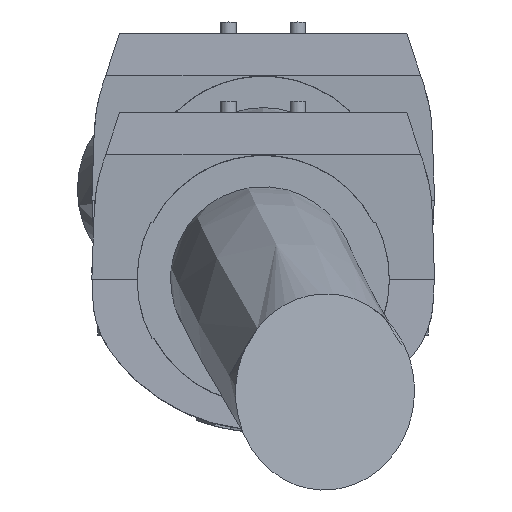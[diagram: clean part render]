
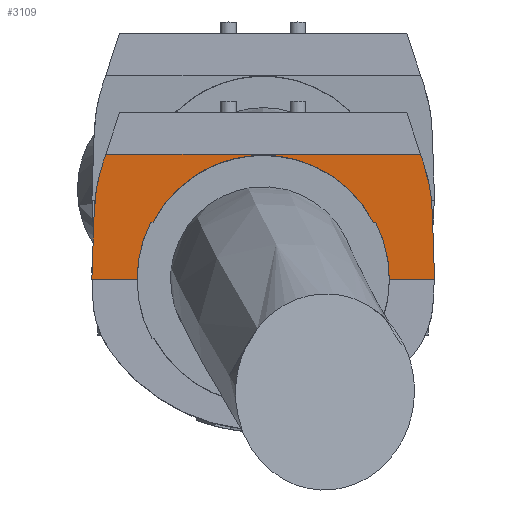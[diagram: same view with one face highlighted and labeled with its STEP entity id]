
A CAD part, top view. The second image highlights one B-rep face of the part: STEP entity #3109.
In plain terms, the highlighted planar face has unit normal (0, -0.035, 0.999).
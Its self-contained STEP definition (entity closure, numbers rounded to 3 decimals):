
#139 = LINE ( 'NONE', #6044, #7878 ) ;
#190 = DIRECTION ( 'NONE',  ( 0.314, -0.949, -0.033 ) ) ;
#214 = LINE ( 'NONE', #8619, #416 ) ;
#392 = CARTESIAN_POINT ( 'NONE',  ( 470.979, -479.756, 1771.635 ) ) ;
#416 = VECTOR ( 'NONE', #8741, 1000. ) ;
#435 =( BOUNDED_CURVE ( )  B_SPLINE_CURVE ( 3, ( #698, #8231, #6590, #392 ),
 .UNSPECIFIED., .F., .F. ) 
 B_SPLINE_CURVE_WITH_KNOTS ( ( 4, 4 ),
 ( 1.251, 1.536 ),
 .UNSPECIFIED. ) 
 CURVE ( )  GEOMETRIC_REPRESENTATION_ITEM ( )  RATIONAL_B_SPLINE_CURVE ( ( 1., 0.993, 0.993, 1. ) ) 
 REPRESENTATION_ITEM ( '' )  );
#474 = CARTESIAN_POINT ( 'NONE',  ( 330.036, -455., 1772.5 ) ) ;
#505 = CARTESIAN_POINT ( 'NONE',  ( 324., -509., 1770.614 ) ) ;
#522 = VERTEX_POINT ( 'NONE', #9570 ) ;
#572 = ORIENTED_EDGE ( 'NONE', *, *, #3030, .F. ) ;
#625 = ORIENTED_EDGE ( 'NONE', *, *, #5860, .F. ) ;
#698 = CARTESIAN_POINT ( 'NONE',  ( 467.218, -458.784, 1772.368 ) ) ;
#867 = ORIENTED_EDGE ( 'NONE', *, *, #10133, .F. ) ;
#890 = LINE ( 'NONE', #5927, #9682 ) ;
#1062 = VERTEX_POINT ( 'NONE', #6164 ) ;
#1076 = VERTEX_POINT ( 'NONE', #10164 ) ;
#1206 = DIRECTION ( 'NONE',  ( -1., 0., 0. ) ) ;
#1337 = CARTESIAN_POINT ( 'NONE',  ( 298., -484.322, 1771.476 ) ) ;
#1782 = EDGE_CURVE ( 'NONE', #3997, #10283, #214, .T. ) ;
#1926 = EDGE_CURVE ( 'NONE', #1062, #6649, #5701, .T. ) ;
#1948 = DIRECTION ( 'NONE',  ( 1., 0., 0. ) ) ;
#1957 = ORIENTED_EDGE ( 'NONE', *, *, #6521, .F. ) ;
#1978 = VERTEX_POINT ( 'NONE', #5942 ) ;
#2151 = CARTESIAN_POINT ( 'NONE',  ( 343.523, -500.383, 1770.915 ) ) ;
#2156 = CARTESIAN_POINT ( 'NONE',  ( 446.567, -484.322, 1771.476 ) ) ;
#2233 = ORIENTED_EDGE ( 'NONE', *, *, #1926, .T. ) ;
#2261 = LINE ( 'NONE', #505, #3875 ) ;
#2326 = ORIENTED_EDGE ( 'NONE', *, *, #6510, .F. ) ;
#2401 = VERTEX_POINT ( 'NONE', #2156 ) ;
#2495 = EDGE_CURVE ( 'NONE', #3476, #10082, #7259, .T. ) ;
#2555 = VERTEX_POINT ( 'NONE', #2603 ) ;
#2603 = CARTESIAN_POINT ( 'NONE',  ( 467.218, -458.784, 1772.368 ) ) ;
#2743 = PLANE ( 'NONE',  #8058 ) ;
#2890 = CARTESIAN_POINT ( 'NONE',  ( 345.53, -492.004, 1771.208 ) ) ;
#2896 = LINE ( 'NONE', #6238, #4701 ) ;
#3019 = ORIENTED_EDGE ( 'NONE', *, *, #9522, .F. ) ;
#3030 = EDGE_CURVE ( 'NONE', #1978, #2555, #139, .T. ) ;
#3109 = ADVANCED_FACE ( 'NONE', ( #10327 ), #2743, .F. ) ;
#3165 = CARTESIAN_POINT ( 'NONE',  ( 445.581, -484.322, 1771.476 ) ) ;
#3222 = CARTESIAN_POINT ( 'NONE',  ( 325.271, -472.61, 1771.885 ) ) ;
#3372 = ORIENTED_EDGE ( 'NONE', *, *, #2495, .F. ) ;
#3476 = VERTEX_POINT ( 'NONE', #8524 ) ;
#3700 = ORIENTED_EDGE ( 'NONE', *, *, #9706, .T. ) ;
#3704 = EDGE_CURVE ( 'NONE', #6649, #10082, #4559, .T. ) ;
#3800 = DIRECTION ( 'NONE',  ( 0., 0.999, 0.035 ) ) ;
#3801 = DIRECTION ( 'NONE',  ( 1., 0., 0. ) ) ;
#3875 = VECTOR ( 'NONE', #9010, 1000. ) ;
#3877 = VERTEX_POINT ( 'NONE', #6096 ) ;
#3997 = VERTEX_POINT ( 'NONE', #9755 ) ;
#4006 = CARTESIAN_POINT ( 'NONE',  ( 325.021, -479.756, 1771.635 ) ) ;
#4009 = CARTESIAN_POINT ( 'NONE',  ( 446.567, -484.322, 1771.476 ) ) ;
#4038 = CARTESIAN_POINT ( 'NONE',  ( 373.229, -440.343, 1773.012 ) ) ;
#4429 = CARTESIAN_POINT ( 'NONE',  ( 350.419, -484.322, 1771.476 ) ) ;
#4464 = VERTEX_POINT ( 'NONE', #7903 ) ;
#4515 = VECTOR ( 'NONE', #1948, 1000. ) ;
#4559 = LINE ( 'NONE', #1337, #10921 ) ;
#4701 = VECTOR ( 'NONE', #1206, 1000. ) ;
#4878 = CARTESIAN_POINT ( 'NONE',  ( 452.477, -500.383, 1770.915 ) ) ;
#4929 = CARTESIAN_POINT ( 'NONE',  ( 326.533, -465.571, 1772.131 ) ) ;
#4935 =( BOUNDED_CURVE ( )  B_SPLINE_CURVE ( 3, ( #4009, #9252, #4878, #7390 ),
 .UNSPECIFIED., .F., .T. ) 
 B_SPLINE_CURVE_WITH_KNOTS ( ( 4, 4 ),
 ( 1.101, 1.571 ),
 .UNSPECIFIED. ) 
 CURVE ( )  GEOMETRIC_REPRESENTATION_ITEM ( )  RATIONAL_B_SPLINE_CURVE ( ( 1., 0.982, 0.982, 1. ) ) 
 REPRESENTATION_ITEM ( '' )  );
#5295 = EDGE_CURVE ( 'NONE', #10106, #1978, #890, .T. ) ;
#5342 = DIRECTION ( 'NONE',  ( 0.035, -0.999, -0.035 ) ) ;
#5378 = CARTESIAN_POINT ( 'NONE',  ( 298., -513.658, 1770.452 ) ) ;
#5447 = ORIENTED_EDGE ( 'NONE', *, *, #3704, .T. ) ;
#5470 = ORIENTED_EDGE ( 'NONE', *, *, #9174, .T. ) ;
#5701 =( BOUNDED_CURVE ( )  B_SPLINE_CURVE ( 3, ( #9015, #2151, #2890, #7300 ),
 .UNSPECIFIED., .F., .T. ) 
 B_SPLINE_CURVE_WITH_KNOTS ( ( 4, 4 ),
 ( 4.712, 5.183 ),
 .UNSPECIFIED. ) 
 CURVE ( )  GEOMETRIC_REPRESENTATION_ITEM ( )  RATIONAL_B_SPLINE_CURVE ( ( 1., 0.982, 0.982, 1. ) ) 
 REPRESENTATION_ITEM ( '' )  );
#5734 = EDGE_CURVE ( 'NONE', #3877, #10106, #6863, .T. ) ;
#5765 = CARTESIAN_POINT ( 'NONE',  ( 328.782, -458.784, 1772.368 ) ) ;
#5845 = CARTESIAN_POINT ( 'NONE',  ( 422.771, -440.343, 1773.012 ) ) ;
#5860 = EDGE_CURVE ( 'NONE', #1062, #3997, #2261, .T. ) ;
#5902 = CARTESIAN_POINT ( 'NONE',  ( 350.419, -484.322, 1771.476 ) ) ;
#5927 = CARTESIAN_POINT ( 'NONE',  ( 298., -455., 1772.5 ) ) ;
#5942 = CARTESIAN_POINT ( 'NONE',  ( 465.964, -455., 1772.5 ) ) ;
#6044 = CARTESIAN_POINT ( 'NONE',  ( 467.685, -460.194, 1772.319 ) ) ;
#6096 = CARTESIAN_POINT ( 'NONE',  ( 328.782, -458.784, 1772.368 ) ) ;
#6164 = CARTESIAN_POINT ( 'NONE',  ( 343.523, -509., 1770.614 ) ) ;
#6238 = CARTESIAN_POINT ( 'NONE',  ( 324., -509., 1770.614 ) ) ;
#6489 = VECTOR ( 'NONE', #10276, 1000. ) ;
#6510 = EDGE_CURVE ( 'NONE', #2555, #522, #435, .T. ) ;
#6521 = EDGE_CURVE ( 'NONE', #522, #1076, #7280, .T. ) ;
#6590 = CARTESIAN_POINT ( 'NONE',  ( 470.729, -472.61, 1771.885 ) ) ;
#6649 = VERTEX_POINT ( 'NONE', #7716 ) ;
#6863 = LINE ( 'NONE', #7966, #6489 ) ;
#6942 = ORIENTED_EDGE ( 'NONE', *, *, #5734, .F. ) ;
#7259 =( BOUNDED_CURVE ( )  B_SPLINE_CURVE ( 3, ( #3165, #5845, #4038, #5902 ),
 .UNSPECIFIED., .F., .F. ) 
 B_SPLINE_CURVE_WITH_KNOTS ( ( 4, 4 ),
 ( 2.049, 4.234 ),
 .UNSPECIFIED. ) 
 CURVE ( )  GEOMETRIC_REPRESENTATION_ITEM ( )  RATIONAL_B_SPLINE_CURVE ( ( 1., 0.64, 0.64, 1. ) ) 
 REPRESENTATION_ITEM ( '' )  );
#7280 = LINE ( 'NONE', #7403, #9034 ) ;
#7300 = CARTESIAN_POINT ( 'NONE',  ( 349.433, -484.322, 1771.476 ) ) ;
#7390 = CARTESIAN_POINT ( 'NONE',  ( 452.477, -509., 1770.614 ) ) ;
#7403 = CARTESIAN_POINT ( 'NONE',  ( 472.052, -510.502, 1770.562 ) ) ;
#7716 = CARTESIAN_POINT ( 'NONE',  ( 349.433, -484.322, 1771.476 ) ) ;
#7878 = VECTOR ( 'NONE', #190, 1000. ) ;
#7903 = CARTESIAN_POINT ( 'NONE',  ( 452.477, -509., 1770.614 ) ) ;
#7966 = CARTESIAN_POINT ( 'NONE',  ( 328.315, -460.194, 1772.319 ) ) ;
#8058 = AXIS2_PLACEMENT_3D ( 'NONE', #5378, #9813, #3800 ) ;
#8108 = ORIENTED_EDGE ( 'NONE', *, *, #1782, .F. ) ;
#8231 = CARTESIAN_POINT ( 'NONE',  ( 469.467, -465.571, 1772.131 ) ) ;
#8441 = DIRECTION ( 'NONE',  ( 1., 0., 0. ) ) ;
#8524 = CARTESIAN_POINT ( 'NONE',  ( 445.581, -484.322, 1771.476 ) ) ;
#8619 = CARTESIAN_POINT ( 'NONE',  ( 324.968, -481.294, 1771.582 ) ) ;
#8741 = DIRECTION ( 'NONE',  ( 0.035, 0.999, 0.035 ) ) ;
#8782 = CARTESIAN_POINT ( 'NONE',  ( 298., -484.322, 1771.476 ) ) ;
#8863 = CARTESIAN_POINT ( 'NONE',  ( 325.021, -479.756, 1771.635 ) ) ;
#9010 = DIRECTION ( 'NONE',  ( -1., 0., 0. ) ) ;
#9015 = CARTESIAN_POINT ( 'NONE',  ( 343.523, -509., 1770.614 ) ) ;
#9034 = VECTOR ( 'NONE', #5342, 1000. ) ;
#9174 = EDGE_CURVE ( 'NONE', #2401, #4464, #4935, .T. ) ;
#9184 =( BOUNDED_CURVE ( )  B_SPLINE_CURVE ( 3, ( #4006, #3222, #4929, #5765 ),
 .UNSPECIFIED., .F., .T. ) 
 B_SPLINE_CURVE_WITH_KNOTS ( ( 4, 4 ),
 ( 4.747, 5.032 ),
 .UNSPECIFIED. ) 
 CURVE ( )  GEOMETRIC_REPRESENTATION_ITEM ( )  RATIONAL_B_SPLINE_CURVE ( ( 1., 0.993, 0.993, 1. ) ) 
 REPRESENTATION_ITEM ( '' )  );
#9208 = EDGE_LOOP ( 'NONE', ( #625, #2233, #5447, #3372, #3700, #5470, #3019, #1957, #2326, #572, #10940, #6942, #867, #8108 ) ) ;
#9252 = CARTESIAN_POINT ( 'NONE',  ( 450.47, -492.004, 1771.208 ) ) ;
#9522 = EDGE_CURVE ( 'NONE', #1076, #4464, #2896, .T. ) ;
#9570 = CARTESIAN_POINT ( 'NONE',  ( 470.979, -479.756, 1771.635 ) ) ;
#9682 = VECTOR ( 'NONE', #8441, 1000. ) ;
#9706 = EDGE_CURVE ( 'NONE', #3476, #2401, #9766, .T. ) ;
#9755 = CARTESIAN_POINT ( 'NONE',  ( 324., -509., 1770.614 ) ) ;
#9766 = LINE ( 'NONE', #8782, #4515 ) ;
#9813 = DIRECTION ( 'NONE',  ( 0., 0.035, -0.999 ) ) ;
#10082 = VERTEX_POINT ( 'NONE', #4429 ) ;
#10106 = VERTEX_POINT ( 'NONE', #474 ) ;
#10133 = EDGE_CURVE ( 'NONE', #10283, #3877, #9184, .T. ) ;
#10164 = CARTESIAN_POINT ( 'NONE',  ( 472., -509., 1770.614 ) ) ;
#10276 = DIRECTION ( 'NONE',  ( 0.314, 0.949, 0.033 ) ) ;
#10283 = VERTEX_POINT ( 'NONE', #8863 ) ;
#10327 = FACE_OUTER_BOUND ( 'NONE', #9208, .T. ) ;
#10921 = VECTOR ( 'NONE', #3801, 1000. ) ;
#10940 = ORIENTED_EDGE ( 'NONE', *, *, #5295, .F. ) ;
